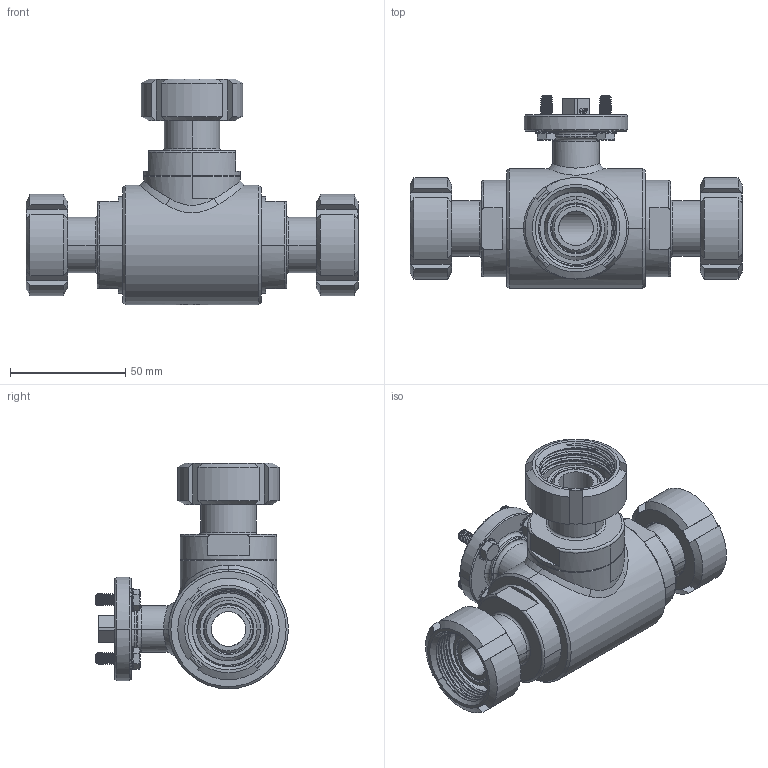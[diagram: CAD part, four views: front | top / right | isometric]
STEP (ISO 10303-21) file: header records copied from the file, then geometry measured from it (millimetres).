
FILE_DESCRIPTION((''),'2;1');
FILE_NAME('30302761410_SW0001','2025-01-23T15:58:51',('tecnico2'),('CDM Tecnoconsulting'),'CREO PARAMETRIC BY PTC INC, 2024063','CREO PARAMETRIC BY PTC INC, 2024063','');
FILE_SCHEMA(('CONFIG_CONTROL_DESIGN','SHAPE_APPEARANCE_LAYERS_GROUPS'));
Products named in the file (1): 30302761410_SW0001
Bounding box: 144 x 83.65 x 98 mm (x, y, z)
Volume: 228569.7 mm3; surface area: 65741.8 mm2
Topology: 1 solids, 1 shells, 1517 faces, 4330 edges, 2772 vertices
Faces by surface type: plane 556, cylinder 390, cone 224, bspline 138, extrusion 111, torus 98
Entity records: 121506 total; most frequent: CARTESIAN_POINT 71198, ORIENTED_EDGE 8656, DIRECTION 6428, PRESENTATION_STYLE_ASSIGNMENT 4367, STYLED_ITEM 4329, CURVE_STYLE 4328, EDGE_CURVE 4328, VERTEX_POINT 2772
